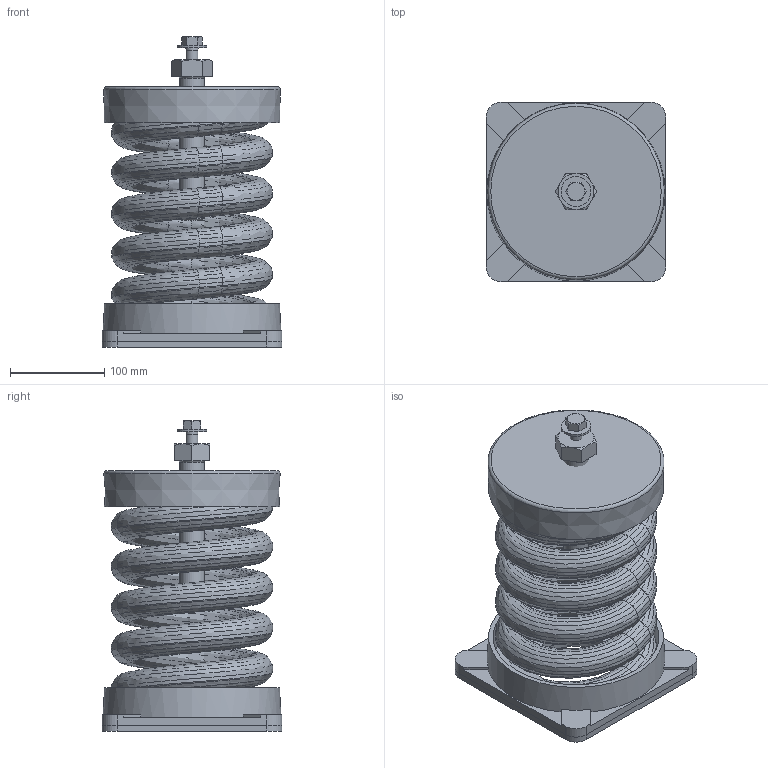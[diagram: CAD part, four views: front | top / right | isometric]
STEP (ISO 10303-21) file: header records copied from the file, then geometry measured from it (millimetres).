
FILE_DESCRIPTION(/* description */ (''),/* implementation_level */ '2;1');
FILE_NAME(/* name */ 'C:\001_Work\Designs\SLF ASSEMBLIES\SLF-114.stp',/* time_stamp */ '2016-01-10T14:11:25-05:00',/* author */ ('rramoutar'),/* organization */ ('Mason Industries Inc.'),/* preprocessor_version */ 'ST-DEVELOPER v15.6',/* originating_system */ 'Autodesk Inventor 2015',/* authorisation */ '');
FILE_SCHEMA (('CONFIG_CONTROL_DESIGN'));
Products named in the file (1): SLF-114
Bounding box: 190.5 x 190.5 x 329.29 mm (x, y, z)
Volume: 1162938.2 mm3; surface area: 781255.4 mm2
Topology: 7 solids, 7 shells, 735 faces, 1556 edges, 842 vertices
Faces by surface type: bspline 535, plane 141, cone 30, cylinder 26, torus 3
Full cylindrical faces by diameter (mm): 10.592 x1, 12.7 x5, 13.487 x1, 19.05 x1, 22.225 x1, 25.959 x1, 31.75 x1, 38.1 x1, 95.25 x2, 176.212 x2
Entity records: 40753 total; most frequent: CARTESIAN_POINT 28585, ORIENTED_EDGE 3050, EDGE_CURVE 1525, B_SPLINE_CURVE_WITH_KNOTS 1082, DIRECTION 890, VERTEX_POINT 836, EDGE_LOOP 777, STYLED_ITEM 742
